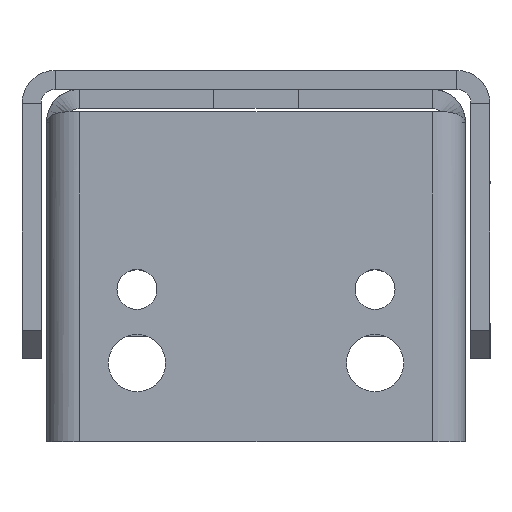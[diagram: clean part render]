
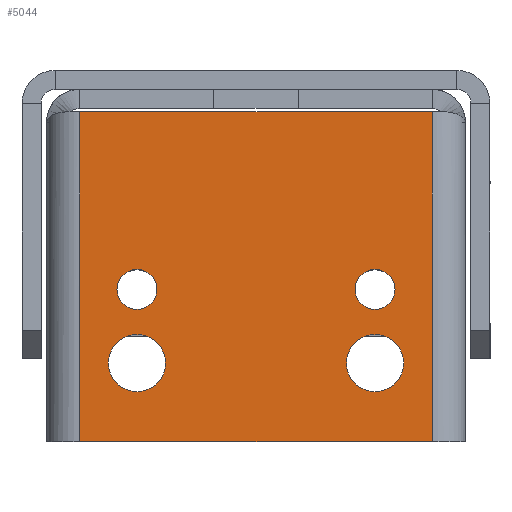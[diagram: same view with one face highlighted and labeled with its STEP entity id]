
A CAD part, left-side view. The second image highlights one B-rep face of the part: STEP entity #5044.
In plain terms, the highlighted planar face has unit normal (-1, 0, 0) as drawn and (0, 0, 1) by its records, which use the part's own axes.
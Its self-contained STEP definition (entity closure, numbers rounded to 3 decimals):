
#5044=ADVANCED_FACE('',(#9788,#9790,#9792,#9794,#9796),#9798,.F.);
#9788=FACE_BOUND('',#9789,.T.);
#9789=EDGE_LOOP('',(#13293,#13294,#13295,#13296));
#9790=FACE_BOUND('',#9791,.T.);
#9791=EDGE_LOOP('',(#13297));
#9792=FACE_BOUND('',#9793,.T.);
#9793=EDGE_LOOP('',(#13298));
#9794=FACE_BOUND('',#9795,.T.);
#9795=EDGE_LOOP('',(#13299));
#9796=FACE_BOUND('',#9797,.T.);
#9797=EDGE_LOOP('',(#13300));
#9798=PLANE('',#9799);
#9799=AXIS2_PLACEMENT_3D('',#9800,#9801,#9802);
#9800=CARTESIAN_POINT('',(18.5,22.,0.));
#9801=DIRECTION('',(0.,0.,-1.));
#9802=DIRECTION('',(-1.,0.,0.));
#13293=ORIENTED_EDGE('',*,*,#14951,.F.);
#13294=ORIENTED_EDGE('',*,*,#14952,.T.);
#13295=ORIENTED_EDGE('',*,*,#14953,.T.);
#13296=ORIENTED_EDGE('',*,*,#14954,.F.);
#13297=ORIENTED_EDGE('',*,*,#14901,.F.);
#13298=ORIENTED_EDGE('',*,*,#14903,.F.);
#13299=ORIENTED_EDGE('',*,*,#14905,.F.);
#13300=ORIENTED_EDGE('',*,*,#14907,.F.);
#14901=EDGE_CURVE('',#17497,#17497,#17498,.T.);
#14903=EDGE_CURVE('',#17501,#17501,#17502,.T.);
#14905=EDGE_CURVE('',#17505,#17505,#17506,.T.);
#14907=EDGE_CURVE('',#17509,#17509,#17510,.T.);
#14951=EDGE_CURVE('',#17589,#17590,#17591,.T.);
#14952=EDGE_CURVE('',#17589,#17592,#17593,.T.);
#14953=EDGE_CURVE('',#17592,#17594,#17595,.T.);
#14954=EDGE_CURVE('',#17590,#17594,#17596,.T.);
#17497=VERTEX_POINT('',#23681);
#17498=CIRCLE('',#23682,2.1);
#17501=VERTEX_POINT('',#23691);
#17502=CIRCLE('',#23692,3.);
#17505=VERTEX_POINT('',#23701);
#17506=CIRCLE('',#23702,2.1);
#17509=VERTEX_POINT('',#23711);
#17510=CIRCLE('',#23712,3.);
#17589=VERTEX_POINT('',#23881);
#17590=VERTEX_POINT('',#23882);
#17591=LINE('',#23883,#23884);
#17592=VERTEX_POINT('',#23886);
#17593=LINE('',#23887,#23888);
#17594=VERTEX_POINT('',#23890);
#17595=LINE('',#23891,#23892);
#17596=LINE('',#23894,#23895);
#23681=CARTESIAN_POINT('',(-0.4,-12.5,0.));
#23682=AXIS2_PLACEMENT_3D('',#23683,#23684,#23685);
#23683=CARTESIAN_POINT('',(-2.5,-12.5,0.));
#23684=DIRECTION('',(0.,0.,1.));
#23685=DIRECTION('',(-1.,0.,0.));
#23691=CARTESIAN_POINT('',(-7.25,-12.5,0.));
#23692=AXIS2_PLACEMENT_3D('',#23693,#23694,#23695);
#23693=CARTESIAN_POINT('',(-10.25,-12.5,0.));
#23694=DIRECTION('',(0.,0.,1.));
#23695=DIRECTION('',(-1.,0.,0.));
#23701=CARTESIAN_POINT('',(-0.4,12.5,0.));
#23702=AXIS2_PLACEMENT_3D('',#23703,#23704,#23705);
#23703=CARTESIAN_POINT('',(-2.5,12.5,0.));
#23704=DIRECTION('',(0.,0.,1.));
#23705=DIRECTION('',(-1.,0.,0.));
#23711=CARTESIAN_POINT('',(-7.25,12.5,0.));
#23712=AXIS2_PLACEMENT_3D('',#23713,#23714,#23715);
#23713=CARTESIAN_POINT('',(-10.25,12.5,0.));
#23714=DIRECTION('',(0.,0.,1.));
#23715=DIRECTION('',(-1.,0.,0.));
#23881=CARTESIAN_POINT('',(16.146,18.5,0.));
#23882=CARTESIAN_POINT('',(16.146,-18.5,0.));
#23883=CARTESIAN_POINT('',(16.146,18.5,0.));
#23884=VECTOR('',#23885,1.);
#23885=DIRECTION('',(0.,-1.,0.));
#23886=CARTESIAN_POINT('',(-18.5,18.5,0.));
#23887=CARTESIAN_POINT('',(16.146,18.5,0.));
#23888=VECTOR('',#23889,1.);
#23889=DIRECTION('',(-1.,0.,0.));
#23890=CARTESIAN_POINT('',(-18.5,-18.5,0.));
#23891=CARTESIAN_POINT('',(-18.5,18.5,0.));
#23892=VECTOR('',#23893,1.);
#23893=DIRECTION('',(0.,-1.,0.));
#23894=CARTESIAN_POINT('',(16.146,-18.5,0.));
#23895=VECTOR('',#23896,1.);
#23896=DIRECTION('',(-1.,0.,0.));
